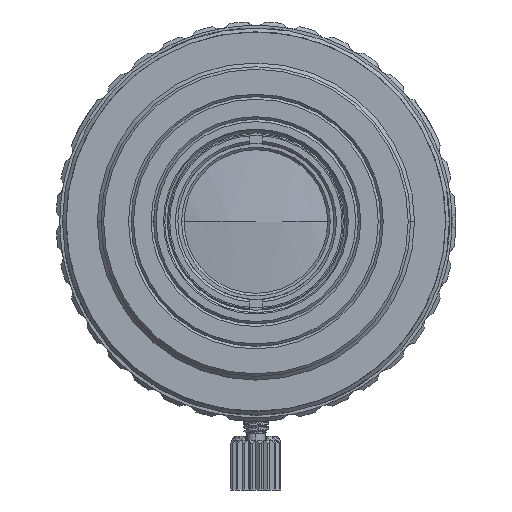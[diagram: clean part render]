
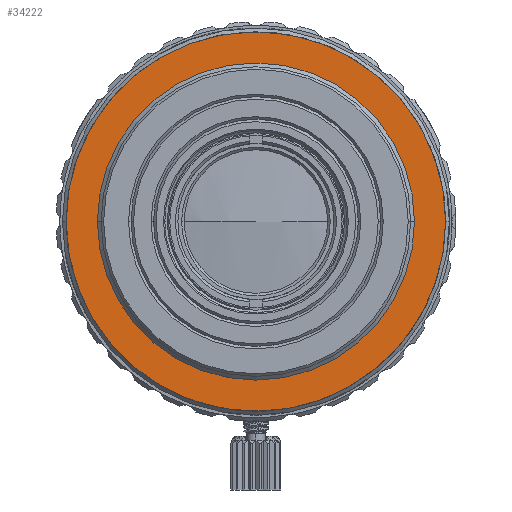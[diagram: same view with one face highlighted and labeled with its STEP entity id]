
A CAD part, front view. The second image highlights one B-rep face of the part: STEP entity #34222.
In plain terms, the highlighted planar face has unit normal (0, -1, 0).
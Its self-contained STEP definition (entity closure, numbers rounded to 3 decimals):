
#33454=CARTESIAN_POINT('',(0.,5.,0.));
#33455=DIRECTION('',(0.,-1.,0.));
#33456=DIRECTION('',(-1.,0.,0.));
#33457=AXIS2_PLACEMENT_3D('',#33454,#33455,#33456);
#33459=CARTESIAN_POINT('',(0.,5.,0.));
#33460=DIRECTION('',(0.,1.,0.));
#33461=DIRECTION('',(-1.,0.,0.));
#33462=AXIS2_PLACEMENT_3D('',#33459,#33460,#33461);
#33468=CARTESIAN_POINT('',(0.,5.,0.));
#33469=DIRECTION('',(0.,1.,0.));
#33470=DIRECTION('',(-1.,0.,0.));
#33471=AXIS2_PLACEMENT_3D('',#33468,#33469,#33470);
#33477=CARTESIAN_POINT('',(0.,5.,0.));
#33478=DIRECTION('',(0.,-1.,0.));
#33479=DIRECTION('',(-1.,0.,0.));
#33480=AXIS2_PLACEMENT_3D('',#33477,#33478,#33479);
#33662=CARTESIAN_POINT('',(-15.2,5.,0.));
#33663=VERTEX_POINT('',#33662);
#33664=CARTESIAN_POINT('',(-12.2,5.,0.));
#33666=VERTEX_POINT('',#33664);
#33687=CARTESIAN_POINT('',(15.2,5.,0.));
#33689=VERTEX_POINT('',#33687);
#33690=CARTESIAN_POINT('',(12.2,5.,0.));
#33692=VERTEX_POINT('',#33690);
#34207=CARTESIAN_POINT('',(0.,5.,0.));
#34208=DIRECTION('',(0.,-1.,0.));
#34209=DIRECTION('',(-1.,0.,0.));
#34210=AXIS2_PLACEMENT_3D('',#34207,#34208,#34209);
#34211=PLANE('',#34210);
#34212=ORIENTED_EDGE('',*,*,#34200,.F.);
#34213=ORIENTED_EDGE('',*,*,#34189,.T.);
#34214=EDGE_LOOP('',(#34212,#34213));
#34215=FACE_OUTER_BOUND('',#34214,.F.);
#34217=ORIENTED_EDGE('',*,*,#34216,.F.);
#34219=ORIENTED_EDGE('',*,*,#34218,.T.);
#34220=EDGE_LOOP('',(#34217,#34219));
#34221=FACE_BOUND('',#34220,.F.);
#34222=ADVANCED_FACE('',(#34215,#34221),#34211,.T.);
#33458=CIRCLE('',#33457,15.2);
#33463=CIRCLE('',#33462,15.2);
#33472=CIRCLE('',#33471,12.2);
#33481=CIRCLE('',#33480,12.2);
#34189=EDGE_CURVE('',#33663,#33689,#33463,.T.);
#34200=EDGE_CURVE('',#33663,#33689,#33458,.T.);
#34216=EDGE_CURVE('',#33666,#33692,#33472,.T.);
#34218=EDGE_CURVE('',#33666,#33692,#33481,.T.);
